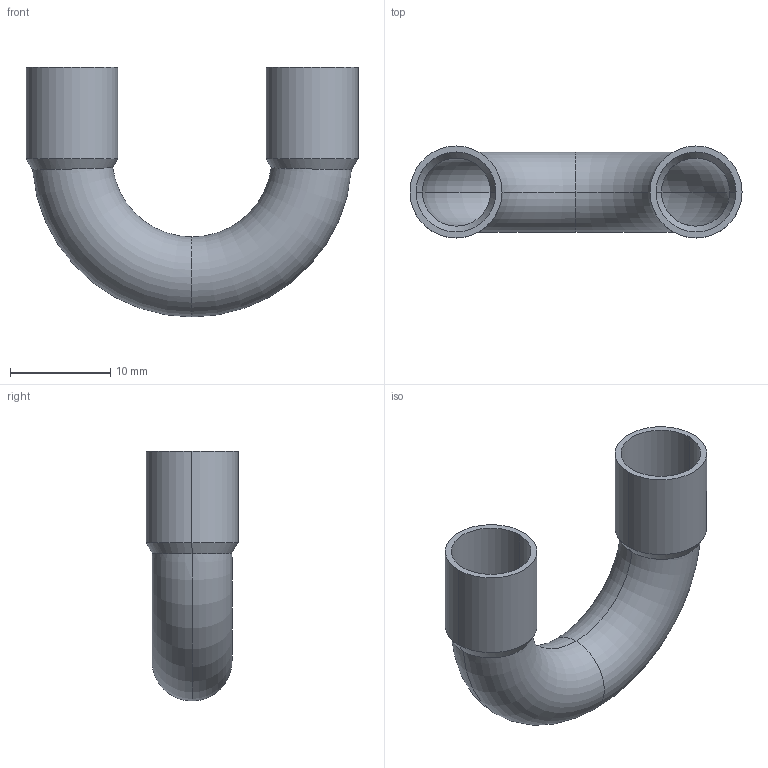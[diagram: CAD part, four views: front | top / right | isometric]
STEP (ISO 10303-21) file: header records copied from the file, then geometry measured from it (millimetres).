
FILE_DESCRIPTION((''),'2;1');
FILE_NAME('C:\sanha_work\5130\f\150608.stp','2005-10-21T17:22:33',('Kris'),(''),'Autodesk Inventor 8','Autodesk Inventor 8','');
FILE_SCHEMA(('AUTOMOTIVE_DESIGN { 1 0 10303 214 1 1 1 1 }'));
Length unit declared in the file: millimetre
Products named in the file (1): 150608
Bounding box: 33.2 x 9.2 x 25 mm (x, y, z)
Volume: 825.1 mm3; surface area: 2782.8 mm2
Topology: 1 solids, 1 shells, 26 faces, 52 edges, 28 vertices
Faces by surface type: bspline 9, torus 8, cone 4, cylinder 4, plane 1
Entity records: 931 total; most frequent: CARTESIAN_POINT 398, DIRECTION 108, ORIENTED_EDGE 104, EDGE_CURVE 52, AXIS2_PLACEMENT_3D 46, VERTEX_POINT 28, CIRCLE 28, EDGE_LOOP 28
